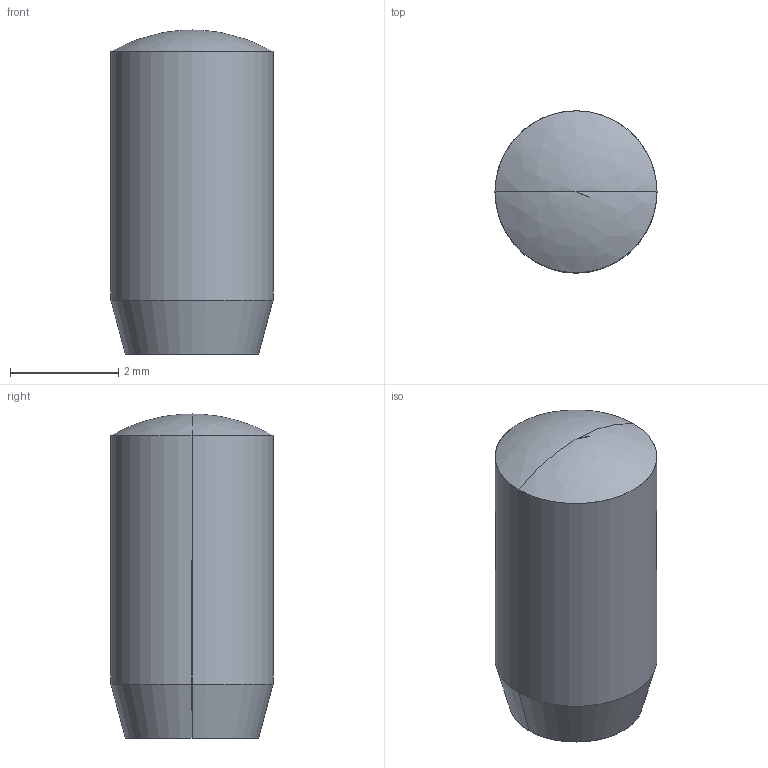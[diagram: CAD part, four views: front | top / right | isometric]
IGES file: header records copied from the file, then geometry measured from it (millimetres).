
Global section: file name: E:\UnigraphicsGraphicData\MISUMI_PRESS-PARTS\IGES\3d_ms3-6_00421_r00.igs; native system: NX V5.0; preprocessor: UGS NX IGES V5.0; author: MISUMI; date: 20110105.161512; units: millimetre
Bounding box: 3 x 3 x 6 mm (x, y, z)
Surface area: 64.6 mm2 (no closed solid volume)
Topology: 0 solids, 0 shells, 7 faces, 32 edges, 30 vertices
Faces by surface type: bspline 7
